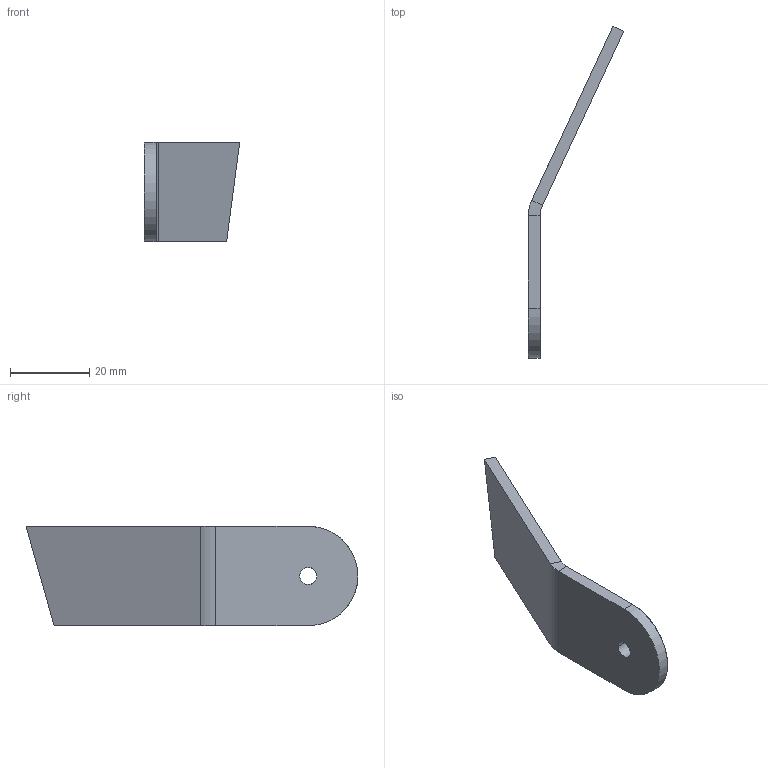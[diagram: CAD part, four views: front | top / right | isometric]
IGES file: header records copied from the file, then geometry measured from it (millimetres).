
Start section: START RECORD GO HERE.
Global section: file name: 20M_FR_09002 (bracket upright).igs; native system: 44HIBM CATIA IGES - CATIA Version 5 Release 19; preprocessor: CATIA Version 5 Release 19 ; author: Mathieu; organization: HUSTON-DESKTOP; date: 20200118.112113; units: millimetre
Bounding box: 24.03 x 83.62 x 25 mm (x, y, z)
Surface area: 4687.7 mm2 (no closed solid volume)
Topology: 0 solids, 0 shells, 16 faces, 68 edges, 68 vertices
Faces by surface type: plane 11, revolution 5
